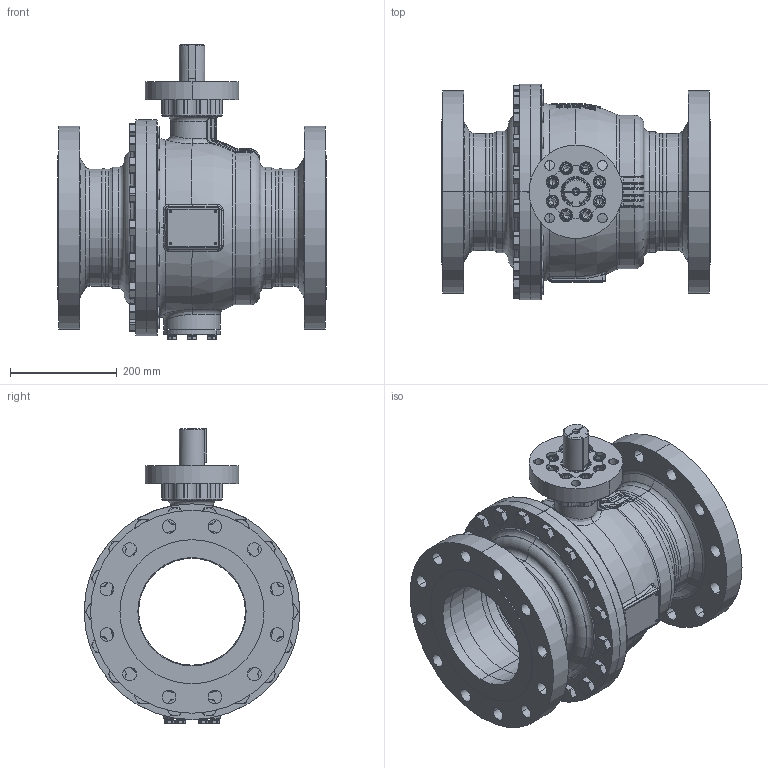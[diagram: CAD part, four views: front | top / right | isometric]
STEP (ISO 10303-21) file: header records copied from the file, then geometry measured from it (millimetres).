
FILE_DESCRIPTION((''),'2;1');
FILE_NAME('KHI-F_200_CL300-F14-P_SW0001','2026-02-05T12:53:35',('fischerkl'),('KLINGER'),'CREO PARAMETRIC BY PTC INC, 2023014','CREO PARAMETRIC BY PTC INC, 2023014','');
FILE_SCHEMA(('CONFIG_CONTROL_DESIGN'));
Products named in the file (1): KHI-F_200_CL300-F14-P_SW0001
Bounding box: 502 x 404 x 552.2 mm (x, y, z)
Volume: 16426634.5 mm3; surface area: 2459417.4 mm2
Topology: 1 solids, 4 shells, 3374 faces, 8564 edges, 5326 vertices
Faces by surface type: plane 1857, cylinder 724, cone 360, torus 295, bspline 108, sphere 30
Entity records: 134923 total; most frequent: CARTESIAN_POINT 55011, ORIENTED_EDGE 17076, DIRECTION 16184, EDGE_CURVE 8538, AXIS2_PLACEMENT_3D 5966, VERTEX_POINT 5326, VECTOR 4252, LINE 4252
